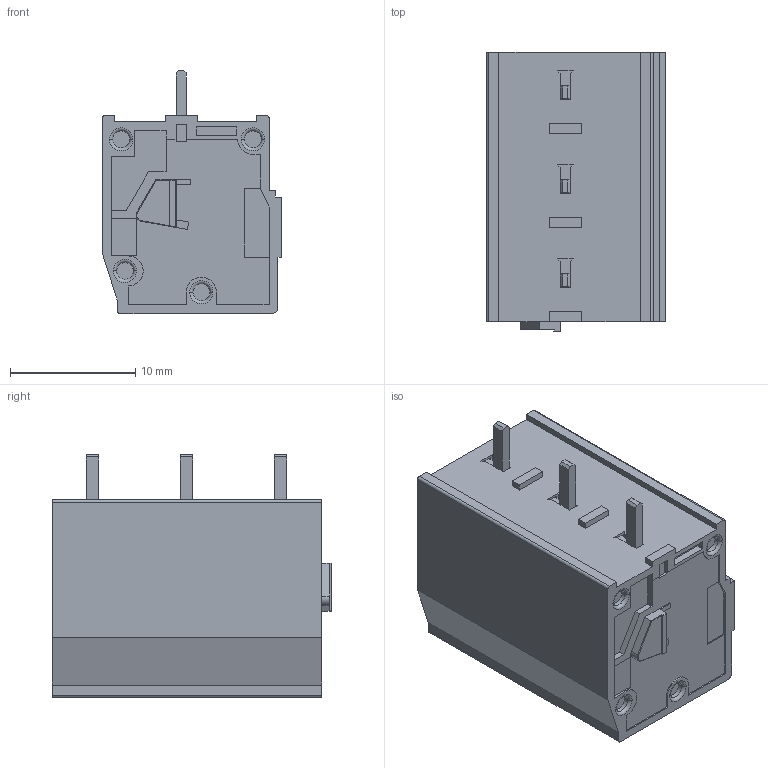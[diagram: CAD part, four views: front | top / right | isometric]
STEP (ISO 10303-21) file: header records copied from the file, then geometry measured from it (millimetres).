
FILE_DESCRIPTION((''),'2;1');
FILE_NAME('3','2019-05-08T',('zhenbing.lai'),(''),'CREO PARAMETRIC BY PTC INC, 2016260','CREO PARAMETRIC BY PTC INC, 2016260','');
FILE_SCHEMA(('CONFIG_CONTROL_DESIGN'));
Length unit declared in the file: millimetre
Products named in the file (1): 3
Bounding box: 14.3 x 22.3 x 19.4 mm (x, y, z)
Volume: 4349.5 mm3; surface area: 1917.2 mm2
Topology: 1 solids, 1 shells, 275 faces, 715 edges, 469 vertices
Faces by surface type: plane 196, cylinder 36, cone 18, torus 17, bspline 8
Entity records: 8628 total; most frequent: CARTESIAN_POINT 1741, ORIENTED_EDGE 1430, DIRECTION 1396, EDGE_CURVE 715, VECTOR 544, LINE 544, VERTEX_POINT 469, AXIS2_PLACEMENT_3D 426
